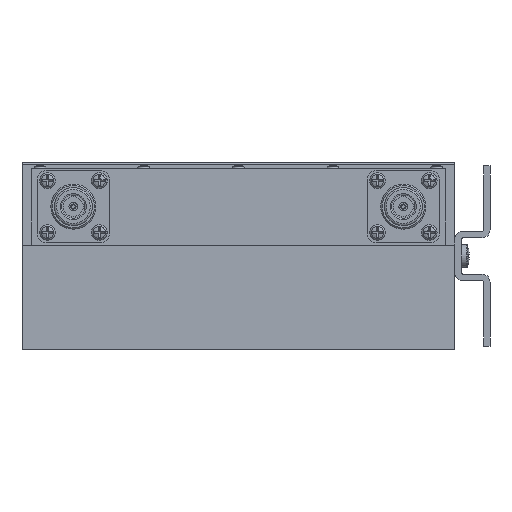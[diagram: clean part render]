
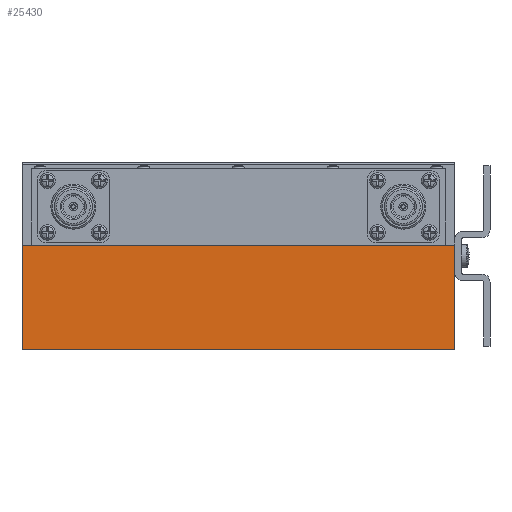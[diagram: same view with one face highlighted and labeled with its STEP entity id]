
A CAD part, left-side view. The second image highlights one B-rep face of the part: STEP entity #25430.
In plain terms, the highlighted planar face has unit normal (-1, 0, 0).
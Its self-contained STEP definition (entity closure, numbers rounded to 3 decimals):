
#1549=LINE('',#36737,#2715);
#1796=LINE('',#37299,#2962);
#1797=LINE('',#37301,#2963);
#1798=LINE('',#37303,#2964);
#2715=VECTOR('',#30960,1000.);
#2962=VECTOR('',#31553,1000.);
#2963=VECTOR('',#31556,1000.);
#2964=VECTOR('',#31557,1000.);
#6260=ORIENTED_EDGE('',*,*,#9301,.T.);
#6261=ORIENTED_EDGE('',*,*,#9582,.F.);
#6262=ORIENTED_EDGE('',*,*,#9583,.F.);
#6263=ORIENTED_EDGE('',*,*,#9584,.T.);
#9301=EDGE_CURVE('',#11173,#11315,#1549,.T.);
#9582=EDGE_CURVE('',#11457,#11315,#1796,.T.);
#9583=EDGE_CURVE('',#11458,#11457,#1797,.T.);
#9584=EDGE_CURVE('',#11458,#11173,#1798,.T.);
#11173=VERTEX_POINT('',#36452);
#11315=VERTEX_POINT('',#36736);
#11457=VERTEX_POINT('',#37298);
#11458=VERTEX_POINT('',#37302);
#13703=EDGE_LOOP('',(#6260,#6261,#6262,#6263));
#15283=FACE_BOUND('',#13703,.T.);
#16575=PLANE('',#27280);
#25430=ADVANCED_FACE('',(#15283),#16575,.F.);
#27280=AXIS2_PLACEMENT_3D('',#37300,#31554,#31555);
#30960=DIRECTION('',(0.,0.,-1.));
#31553=DIRECTION('',(0.,1.,0.));
#31554=DIRECTION('',(1.,0.,0.));
#31555=DIRECTION('',(0.,0.,-1.));
#31556=DIRECTION('',(0.,0.,-1.));
#31557=DIRECTION('',(0.,1.,0.));
#36452=CARTESIAN_POINT('',(0.,0.,36.83));
#36736=CARTESIAN_POINT('',(0.,0.,0.));
#36737=CARTESIAN_POINT('',(0.,0.,36.83));
#37298=CARTESIAN_POINT('',(0.,-152.4,0.));
#37299=CARTESIAN_POINT('',(0.,-152.4,0.));
#37300=CARTESIAN_POINT('',(0.,-152.4,36.83));
#37301=CARTESIAN_POINT('',(0.,-152.4,36.83));
#37302=CARTESIAN_POINT('',(0.,-152.4,36.83));
#37303=CARTESIAN_POINT('',(0.,-152.4,36.83));
